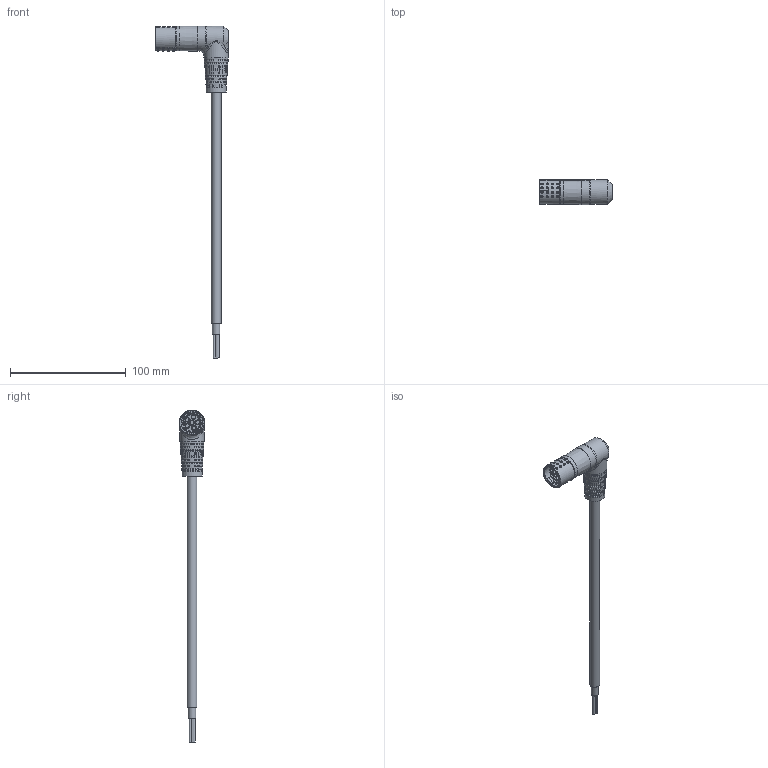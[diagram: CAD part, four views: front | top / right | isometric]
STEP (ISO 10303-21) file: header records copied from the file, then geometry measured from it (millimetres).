
FILE_DESCRIPTION (( 'STEP AP203' ), '1' );
FILE_NAME ('1135019_W-TEC_15M_GLATT_BU-90°R_STEP.STEP', '2023-09-06T09:22:33', ( '' ), ( '' ), 'SwSTEP 2.0', 'SolidWorks 2021', '' );
FILE_SCHEMA (( 'CONFIG_CONTROL_DESIGN' ));
Length unit declared in the file: millimetre
Products named in the file (1): 1135019_W-TEC_15M_GLATT_BU-90訌_STEP
Bounding box: 62.81 x 21.83 x 287.13 mm (x, y, z)
Surface area: 16076 mm2 (no closed solid volume)
Topology: 0 solids, 21 shells, 426 faces, 1725 edges, 1239 vertices
Faces by surface type: bspline 246, plane 74, cylinder 74, cone 29, torus 3
Full cylindrical faces by diameter (mm): 1.8 x3, 3.3 x6, 4.2 x3, 5.4 x1, 6.4 x1, 8.4 x1, 17.397 x1, 18.4 x1, 21.038 x1, 21.72 x1
Entity records: 36780 total; most frequent: CARTESIAN_POINT 26179, ORIENTED_EDGE 2456, EDGE_CURVE 1632, DIRECTION 1247, VERTEX_POINT 1221, B_SPLINE_CURVE_WITH_KNOTS 930, EDGE_LOOP 522, AXIS2_PLACEMENT_3D 478
